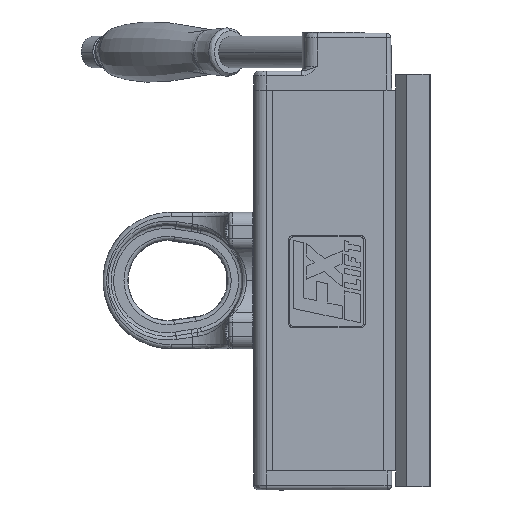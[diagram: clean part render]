
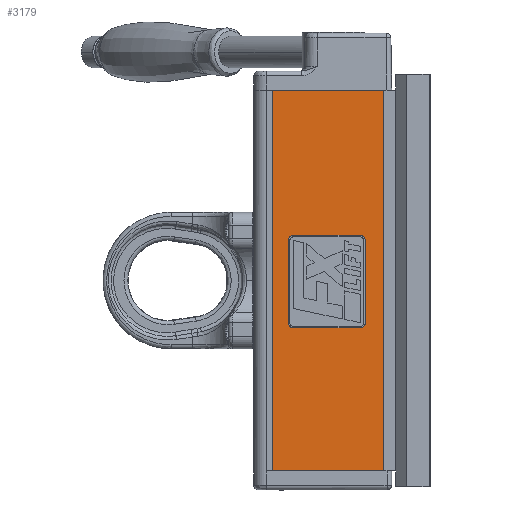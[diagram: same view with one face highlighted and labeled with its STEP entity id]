
A CAD part, left-side view. The second image highlights one B-rep face of the part: STEP entity #3179.
In plain terms, the highlighted planar face has unit normal (-1, 0, 0).
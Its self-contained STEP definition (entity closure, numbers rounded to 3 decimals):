
#3179=ADVANCED_FACE('NONE',(#6765,#6766),#6767,.F.);
#6765=FACE_OUTER_BOUND('',#18833,.T.);
#6766=FACE_BOUND('',#18834,.T.);
#6767=PLANE('',#18835);
#18833=EDGE_LOOP('',(#37895,#37896,#37897,#37898));
#18834=EDGE_LOOP('',(#37899,#37900,#37901,#37902,#37903,#37904,#37905,#37906));
#18835=AXIS2_PLACEMENT_3D('',#37907,#37908,#37909);
#37895=ORIENTED_EDGE('',*,*,#44291,.F.);
#37896=ORIENTED_EDGE('',*,*,#44292,.F.);
#37897=ORIENTED_EDGE('',*,*,#44293,.T.);
#37898=ORIENTED_EDGE('',*,*,#44285,.F.);
#37899=ORIENTED_EDGE('',*,*,#44202,.F.);
#37900=ORIENTED_EDGE('',*,*,#44199,.F.);
#37901=ORIENTED_EDGE('',*,*,#44196,.F.);
#37902=ORIENTED_EDGE('',*,*,#44193,.F.);
#37903=ORIENTED_EDGE('',*,*,#44190,.F.);
#37904=ORIENTED_EDGE('',*,*,#44187,.F.);
#37905=ORIENTED_EDGE('',*,*,#44183,.F.);
#37906=ORIENTED_EDGE('',*,*,#44205,.F.);
#37907=CARTESIAN_POINT('',(-125.508,-38.,160.592));
#37908=DIRECTION('',(1.0,0.0,0.));
#37909=DIRECTION('',(0.0,1.0,0.0));
#44183=EDGE_CURVE('NONE',#50118,#50119,#50120,.T.);
#44187=EDGE_CURVE('NONE',#50119,#50124,#50125,.T.);
#44190=EDGE_CURVE('NONE',#50124,#50128,#50129,.T.);
#44193=EDGE_CURVE('NONE',#50128,#50132,#50133,.T.);
#44196=EDGE_CURVE('NONE',#50132,#50136,#50137,.T.);
#44199=EDGE_CURVE('NONE',#50136,#50140,#50141,.T.);
#44202=EDGE_CURVE('NONE',#50140,#50144,#50145,.T.);
#44205=EDGE_CURVE('NONE',#50144,#50118,#50148,.T.);
#44285=EDGE_CURVE('NONE',#50267,#50270,#50271,.T.);
#44291=EDGE_CURVE('NONE',#50278,#50267,#50279,.T.);
#44292=EDGE_CURVE('NONE',#50280,#50278,#50281,.T.);
#44293=EDGE_CURVE('NONE',#50280,#50270,#50282,.T.);
#50118=VERTEX_POINT('NONE',#65311);
#50119=VERTEX_POINT('NONE',#65312);
#50120=B_SPLINE_CURVE_WITH_KNOTS('',3,(#65313,#65314,#65315,#65316),.UNSPECIFIED.,.F.,.F.,(4,4),(0.,0.005),.UNSPECIFIED.);
#50124=VERTEX_POINT('NONE',#65322);
#50125=LINE('',#65323,#65324);
#50128=VERTEX_POINT('NONE',#65328);
#50129=B_SPLINE_CURVE_WITH_KNOTS('',3,(#65329,#65330,#65331,#65332),.UNSPECIFIED.,.F.,.F.,(4,4),(0.0,0.005),.UNSPECIFIED.);
#50132=VERTEX_POINT('NONE',#65336);
#50133=LINE('',#65337,#65338);
#50136=VERTEX_POINT('NONE',#65342);
#50137=B_SPLINE_CURVE_WITH_KNOTS('',3,(#65343,#65344,#65345,#65346),.UNSPECIFIED.,.F.,.F.,(4,4),(0.0,0.005),.UNSPECIFIED.);
#50140=VERTEX_POINT('NONE',#65350);
#50141=LINE('',#65351,#65352);
#50144=VERTEX_POINT('NONE',#65356);
#50145=B_SPLINE_CURVE_WITH_KNOTS('',3,(#65357,#65358,#65359,#65360),.UNSPECIFIED.,.F.,.F.,(4,4),(0.,0.005),.UNSPECIFIED.);
#50148=LINE('',#65364,#65365);
#50267=VERTEX_POINT('NONE',#65553);
#50270=VERTEX_POINT('NONE',#65557);
#50271=LINE('',#65558,#65559);
#50278=VERTEX_POINT('NONE',#65569);
#50279=LINE('',#65570,#65571);
#50280=VERTEX_POINT('NONE',#65572);
#50281=LINE('',#65573,#65574);
#50282=LINE('',#65575,#65576);
#65311=CARTESIAN_POINT('',(-125.508,-9.801,14.));
#65312=CARTESIAN_POINT('',(-125.508,-13.04,10.762));
#65313=CARTESIAN_POINT('',(-125.508,-9.801,14.));
#65314=CARTESIAN_POINT('',(-125.508,-9.801,12.219));
#65315=CARTESIAN_POINT('',(-125.508,-11.258,10.762));
#65316=CARTESIAN_POINT('',(-125.508,-13.04,10.762));
#65322=CARTESIAN_POINT('',(-125.508,-55.14,10.762));
#65323=CARTESIAN_POINT('',(-125.508,-38.,10.762));
#65324=VECTOR('',#77059,1000.0);
#65328=CARTESIAN_POINT('',(-125.508,-58.379,14.));
#65329=CARTESIAN_POINT('',(-125.508,-55.14,10.762));
#65330=CARTESIAN_POINT('',(-125.508,-56.921,10.762));
#65331=CARTESIAN_POINT('',(-125.508,-58.379,12.219));
#65332=CARTESIAN_POINT('',(-125.508,-58.379,14.));
#65336=CARTESIAN_POINT('',(-125.508,-58.379,65.816));
#65337=CARTESIAN_POINT('',(-125.508,-58.379,160.592));
#65338=VECTOR('',#77062,1000.0);
#65342=CARTESIAN_POINT('',(-125.508,-55.14,69.055));
#65343=CARTESIAN_POINT('',(-125.508,-58.379,65.816));
#65344=CARTESIAN_POINT('',(-125.508,-58.379,67.597));
#65345=CARTESIAN_POINT('',(-125.508,-56.921,69.055));
#65346=CARTESIAN_POINT('',(-125.508,-55.14,69.055));
#65350=CARTESIAN_POINT('',(-125.508,-13.04,69.055));
#65351=CARTESIAN_POINT('',(-125.508,-38.,69.055));
#65352=VECTOR('',#77065,1000.0);
#65356=CARTESIAN_POINT('',(-125.508,-9.801,65.816));
#65357=CARTESIAN_POINT('',(-125.508,-13.04,69.055));
#65358=CARTESIAN_POINT('',(-125.508,-11.258,69.055));
#65359=CARTESIAN_POINT('',(-125.508,-9.801,67.597));
#65360=CARTESIAN_POINT('',(-125.508,-9.801,65.816));
#65364=CARTESIAN_POINT('',(-125.508,-9.801,160.592));
#65365=VECTOR('',#77068,1000.0);
#65553=CARTESIAN_POINT('',(-125.508,-70.5,160.592));
#65557=CARTESIAN_POINT('',(-125.508,-70.5,-79.408));
#65558=CARTESIAN_POINT('',(-125.508,-70.5,160.592));
#65559=VECTOR('',#77127,1000.0);
#65569=CARTESIAN_POINT('',(-125.508,0.0,160.592));
#65570=CARTESIAN_POINT('',(-125.508,-31.5,160.592));
#65571=VECTOR('',#77131,1000.0);
#65572=CARTESIAN_POINT('',(-125.508,0.0,-79.408));
#65573=CARTESIAN_POINT('',(-125.508,0.0,40.592));
#65574=VECTOR('',#77132,1000.0);
#65575=CARTESIAN_POINT('',(-125.508,-31.5,-79.408));
#65576=VECTOR('',#77133,1000.0);
#77059=DIRECTION('',(-0.0,-1.0,-0.0));
#77062=DIRECTION('',(0.,-0.0,1.0));
#77065=DIRECTION('',(0.0,1.0,0.0));
#77068=DIRECTION('',(0.,0.0,-1.0));
#77127=DIRECTION('',(0.,0.0,-1.0));
#77131=DIRECTION('',(-0.0,-1.0,-0.0));
#77132=DIRECTION('',(0.,-0.0,1.0));
#77133=DIRECTION('',(-0.0,-1.0,-0.0));
